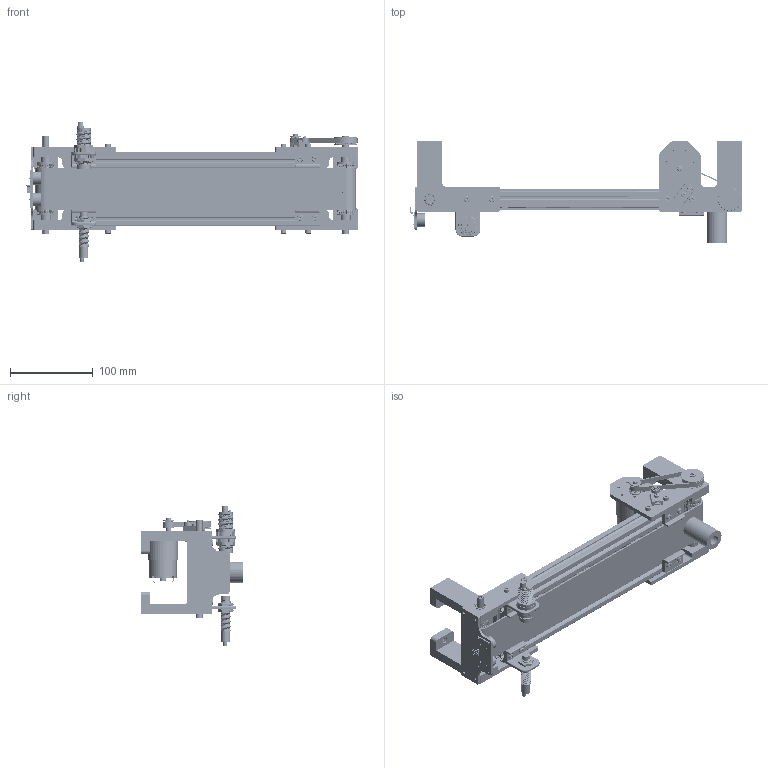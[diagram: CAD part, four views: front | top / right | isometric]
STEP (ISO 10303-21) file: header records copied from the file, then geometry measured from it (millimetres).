
FILE_DESCRIPTION(/* description */ (''),/* implementation_level */ '2;1');
FILE_NAME(/* name */ 'nastro_trasportatore_790x50_v2.stp',/* time_stamp */ '2025-10-21T19:22:05+02:00',/* author */ ('R5800u'),/* organization */ (''),/* preprocessor_version */ 'ST-DEVELOPER v20',/* originating_system */ 'Autodesk Inventor 2025',/* authorisation */ '');
FILE_SCHEMA (('AUTOMOTIVE_DESIGN { 1 0 10303 214 3 1 1 }'));
Products named in the file (48): nastro_trasportatore_790x50_v2; tslot-20x20-1; tslot-20x20-1_MIR; tslot-20x20-2; SNSD20x20_MIR; SNSD20x20; lato; GT2 Timing Pulley T40 small; blocco_nastro; Assieme_cilindro; cilindro_01_c; perno_cilindro_b; perno_cilindro_a; blocco_nastro_MIR2; cinghia_790mm; cinghia_200mm; JGB37-520_MIR_MIR; GT2 16 Teeth Free Pulley; piastra_laterale_cilindro_MIR; piastra_laterale_cilindro_MIR3; piastra_laterale_cilindro_MIR_MIR; Assieme_cilindro_MIR; cilindro_01_c_MIR; perno_cilindro_b_MIR; perno_cilindro_a_MIR; Assieme_cilindro_interno; cilindri_interni; %3% BS 290 - SKF 618/8; perno_laterale_cilindro_interno; perno_laterale_cilindro_interno_MIR; AS 1420 - 1973 - M4 x 8; blocco_sensore; Assembly_Sensor; Proximity_Sensor_E18-D80NK; Proxomity_Sensor_Nut; Inductive Proximity Sensor LJ12A3-4-Z_BX; Inductive_Proximity_Nut_Fastener; blocco_sensore2; blocco_ultrasuoni; HC-SR04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
Assembly tree (80 placements, depth 3):
  nastro_trasportatore_790x50_v2
    tslot-20x20-1
    tslot-20x20-1_MIR
    tslot-20x20-2  x3
    SNSD20x20  x3
    SNSD20x20_MIR  x3
    lato
    GT2 Timing Pulley T40 small
    %3% BS 290 - SKF 618/8  x8
    blocco_nastro
    AS 1420 - 1973 - M4 x 8  x16
    Assieme_cilindro
      cilindro_01_c
      perno_cilindro_b
      perno_cilindro_a
    blocco_nastro_MIR2
    Assieme_cilindro_interno  x2
      cilindri_interni
      %3% BS 290 - SKF 618/8
      perno_laterale_cilindro_interno
      perno_laterale_cilindro_interno_MIR
    cinghia_790mm
    cinghia_200mm
    JGB37-520_MIR_MIR
    GT2 16 Teeth Free Pulley
    piastra_laterale_cilindro_MIR
    piastra_laterale_cilindro_MIR3
    piastra_laterale_cilindro_MIR_MIR
    Assieme_cilindro_MIR
      cilindro_01_c_MIR
      perno_cilindro_b_MIR
      perno_cilindro_a_MIR
    blocco_sensore
    Assembly_Sensor
      Proxomity_Sensor_Nut  x2
      Proximity_Sensor_E18-D80NK
    Inductive Proximity Sensor LJ12A3-4-Z_BX
    Inductive_Proximity_Nut_Fastener  x2
    blocco_sensore2
    blocco_ultrasuoni
    HC-SR04
    pezzo
    piastra_laterale_cilindro_v2
    tendi_cinghia
    AS 1420 - 1973 - M3 x 10
    %3% BS 290 - SKF 623
    ASME B18.27.2 NA6 - 1/8
    AS 1420 - 1973 - M3 x 6
    dado_quadro_m3
Bounding box: 400.93 x 122.65 x 168.89 mm (x, y, z)
Volume: 604585.4 mm3; surface area: 436202.1 mm2
Topology: 106 solids, 106 shells, 16750 faces, 46621 edges, 30120 vertices
Faces by surface type: plane 9688, cylinder 3360, torus 2936, bspline 573, sphere 121, cone 72
Full cylindrical faces by diameter (mm): 0.5 x2, 0.8 x4, 1.1 x16, 1.2 x10, 1.5 x4, 1.6 x9, 1.8 x8, 2 x23, 2.459 x1, 2.5 x7, 2.6 x3, 2.9 x4, 3 x9, 3.2 x10, 3.4 x6, 3.7 x1, 4 x19, 4.2 x8, 4.3 x12, 4.5 x8, 5 x5, 5.24 x2, 5.5 x4, 6 x4, 7 x16, 7.5 x1, 7.76 x2, 8 x29, 8.2 x4, 10 x3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
Entity records: 558743 total; most frequent: CARTESIAN_POINT 202669, ORIENTED_EDGE 76998, DIRECTION 65699, EDGE_CURVE 38499, LINE 25121, VECTOR 25121, VERTEX_POINT 25002, AXIS2_PLACEMENT_3D 20289
